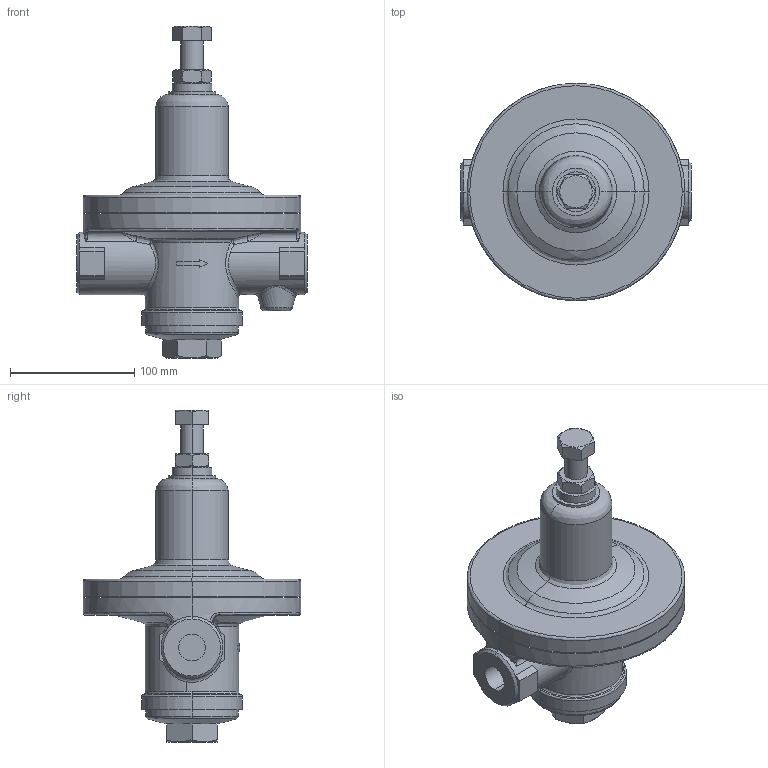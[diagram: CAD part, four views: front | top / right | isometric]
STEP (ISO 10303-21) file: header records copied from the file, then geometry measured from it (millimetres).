
FILE_DESCRIPTION( (''), '2;1');
FILE_NAME ('PC1276.10472.GD-6 20A_27962.stp','2026-01-15T14:17:41',(''),(''),'spGate 20.6.3 (****-****-****-****)','','');
FILE_SCHEMA (('AUTOMOTIVE_DESIGN'));
Length unit declared in the file: millimetre
Bounding box: 185 x 175 x 267.01 mm (x, y, z)
Volume: 1638030 mm3; surface area: 136387.6 mm2
Topology: 1 solids, 1 shells, 165 faces, 395 edges, 240 vertices
Faces by surface type: bspline 66, plane 62, cylinder 33, sphere 4
Entity records: 11213 total; most frequent: CARTESIAN_POINT 4778, ORIENTED_EDGE 782, DIRECTION 561, COLOUR_RGB 557, PRESENTATION_STYLE_ASSIGNMENT 557, STYLED_ITEM 557, EDGE_CURVE 391, DRAUGHTING_PRE_DEFINED_CURVE_FONT 391
